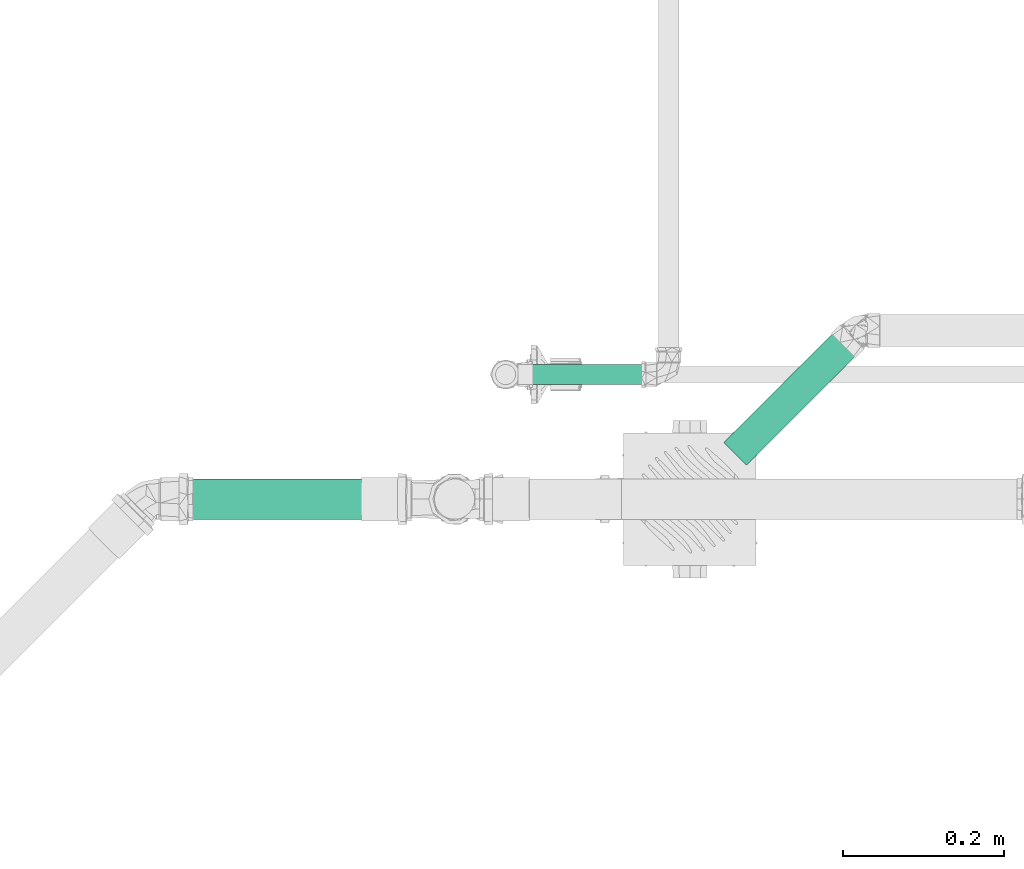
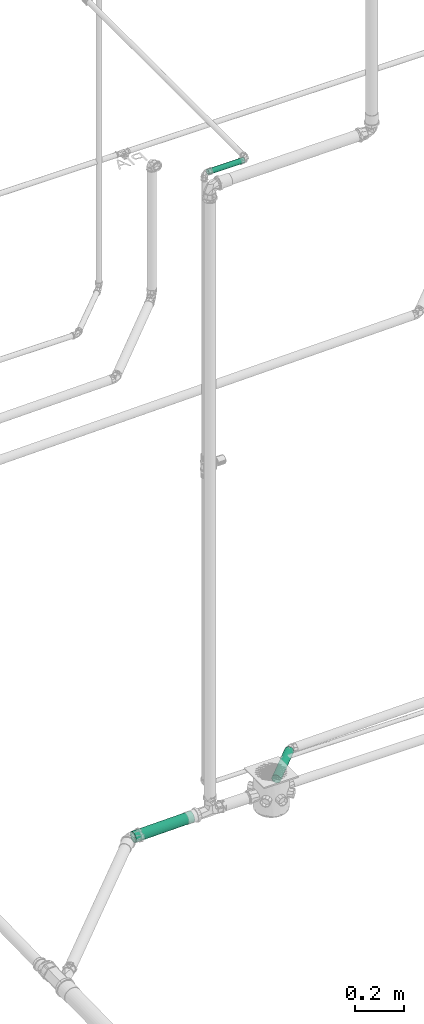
# One storey, part 28 of 589: 3 flow segments.
"""IFC2X3 building model written with IfcOpenShell, lengths in millimetres."""

import ifcopenshell
import ifcopenshell.guid

model = None  # the IFC model being written
_history = None  # IfcOwnerHistory: only IFC2X3 demands one
_inside = {}  # id of a spatial element -> (the spatial element, [elements in it])
_under = {}  # id of a project, library or spatial element -> (it, [spatial elements below it])
_declared = {}  # id of a project -> (the project, [libraries it declares])
_typed = {}  # id of a type object -> (the type object, [elements of that type])
_made_of = {}  # id of a material, layer set ... -> (it, [elements and type objects made of it])


def new_model(schema):
    """Start an empty IFC model of exactly this schema.

    Asked for "IFC4X3", IfcOpenShell would pick the latest addendum, in which some entities
    have other attributes; the version numbers below select the first issue.
    IFC2X3 requires an IfcOwnerHistory on every rooted entity: one is made here for all.
    """
    global model, _history
    if schema == "IFC4X3":
        model = ifcopenshell.file(schema_version=(4, 3, 0, 0))
    else:
        model = ifcopenshell.file(schema=schema)
    _inside.clear()
    _under.clear()
    _declared.clear()
    _typed.clear()
    _made_of.clear()
    _history = None
    if model.schema == "IFC2X3":
        org = make("IfcOrganization", Name="unknown")
        user = make(
            "IfcPersonAndOrganization",
            ThePerson=make("IfcPerson", FamilyName="unknown"),
            TheOrganization=org,
        )
        app = make(
            "IfcApplication",
            ApplicationDeveloper=org,
            Version="unknown",
            ApplicationFullName="unknown",
            ApplicationIdentifier="unknown",
        )
        _history = make(
            "IfcOwnerHistory",
            OwningUser=user,
            OwningApplication=app,
            ChangeAction="ADDED",
            CreationDate=0,
        )
    return model


def make(cls, **values):
    """One entity of the class cls with the attributes given. An attribute that is None is left unset."""
    return model.create_entity(
        cls, **{name: value for name, value in values.items() if value is not None}
    )


def entity(cls, *values):
    """Any entity or typed value of the class cls, its attributes in the order of the schema. None: left unset."""
    e = model.create_entity(cls)
    for i, value in enumerate(values):
        if value is not None:
            e[i] = value
    return e


def rooted(cls, **values):
    """An entity with a GlobalId (a new one), such as an element, a storey or a relation."""
    return make(cls, GlobalId=ifcopenshell.guid.new(), OwnerHistory=_history, **values)


def si_unit(unit_type, name, prefix=None):
    """IfcSIUnit, for example si_unit("LENGTHUNIT", "METRE", prefix="MILLI")."""
    return make("IfcSIUnit", UnitType=unit_type, Prefix=prefix, Name=name)


def converted_unit(unit_type, name, factor, base, dimensions=None, offset=None):
    """IfcConversionBasedUnit, such as the inch: factor (a typed value) times the base unit."""
    return make(
        "IfcConversionBasedUnit"
        if offset is None
        else "IfcConversionBasedUnitWithOffset",
        ConversionOffset=offset,
        Dimensions=None
        if dimensions is None
        else entity("IfcDimensionalExponents", *dimensions),
        UnitType=unit_type,
        Name=name,
        ConversionFactor=make(
            "IfcMeasureWithUnit", ValueComponent=factor, UnitComponent=base
        ),
    )


def derived_unit(unit_type, elements):
    """IfcDerivedUnit: a product of units, each with its exponent."""
    return make(
        "IfcDerivedUnit",
        Elements=[
            make("IfcDerivedUnitElement", Unit=unit, Exponent=power)
            for unit, power in elements
        ],
        UnitType=unit_type,
    )


def assignment(units):
    """IfcUnitAssignment: the units of a project."""
    return None if units is None else make("IfcUnitAssignment", Units=units)


def point(xyz):
    """IfcCartesianPoint."""
    return None if xyz is None else make("IfcCartesianPoint", Coordinates=xyz)


def direction(xyz):
    """IfcDirection."""
    return None if xyz is None else make("IfcDirection", DirectionRatios=xyz)


def frame(location, z_axis=None, x_axis=None):
    """IfcAxis2Placement3D, a coordinate frame: its origin and axes. An axis left out is left unset."""
    return make(
        "IfcAxis2Placement3D",
        Location=point(location),
        Axis=direction(z_axis),
        RefDirection=direction(x_axis),
    )


def frame_2d(location, x_axis=None):
    """IfcAxis2Placement2D, a coordinate frame in the plane: its origin and x axis."""
    return make(
        "IfcAxis2Placement2D", Location=point(location), RefDirection=direction(x_axis)
    )


def origin():
    """The frame at (0, 0, 0) with its axes left unset."""
    return frame((0.0, 0.0, 0.0))


def origin_2d_with_axis():
    """The frame at (0, 0) in the plane with the x axis (1, 0) written out."""
    return frame_2d((0.0, 0.0), x_axis=(1.0, 0.0))


def place(relative_to, where):
    """IfcLocalPlacement: puts the frame where relative to a parent placement (None: the world)."""
    return make(
        "IfcLocalPlacement", PlacementRelTo=relative_to, RelativePlacement=where
    )


def context(
    kind, dimensions, precision=None, world=None, true_north=None, identifier=None
):
    """IfcGeometricRepresentationContext, for example the 3D "Model" context."""
    return make(
        "IfcGeometricRepresentationContext",
        ContextIdentifier=identifier,
        ContextType=kind,
        CoordinateSpaceDimension=dimensions,
        Precision=precision,
        WorldCoordinateSystem=world,
        TrueNorth=true_north,
    )


def subcontext(parent, identifier, kind, view, scale=None):
    """IfcGeometricRepresentationSubContext, for example "Body" below "Model"."""
    return make(
        "IfcGeometricRepresentationSubContext",
        ContextIdentifier=identifier,
        ContextType=kind,
        ParentContext=parent,
        TargetScale=scale,
        TargetView=view,
    )


def project(units=None, contexts=None):
    """IfcProject with its units and contexts."""
    return rooted(
        "IfcProject",
        Name="project",
        RepresentationContexts=contexts,
        UnitsInContext=assignment(units),
    )


def spatial(cls, under=None, at=None, **own):
    """A site, building, storey or space (cls), placed at a placement, below another one or the project."""
    s = rooted(cls, ObjectPlacement=at, **own)
    if under is not None:
        _under.setdefault(under.id(), (under, []))[1].append(s)
    return s


def profile(cls, at=None, kind="AREA", **sizes):
    """A parametric profile (cls). Its sizes go by their IFC names, for example OverallWidth=200.0."""
    return make(cls, ProfileType=kind, Position=at, **sizes)


def circle(**sizes):
    """IfcCircleProfileDef."""
    return profile("IfcCircleProfileDef", **sizes)


def extrude(swept, where, along, depth):
    """IfcExtrudedAreaSolid: the profile swept, set in the frame where, extruded along a direction by depth."""
    return make(
        "IfcExtrudedAreaSolid",
        SweptArea=swept,
        Position=where,
        ExtrudedDirection=direction(along),
        Depth=depth,
    )


def shape(context_of_items, identifier, shape_type, items):
    """IfcShapeRepresentation: the items that make up one representation, for example the "Body"."""
    return make(
        "IfcShapeRepresentation",
        ContextOfItems=context_of_items,
        RepresentationIdentifier=identifier,
        RepresentationType=shape_type,
        Items=items,
    )


def made_of(thing, what):
    """Note that an element or type object is made of a material, layer set ...; save() writes the relation."""
    if what is not None:
        _made_of.setdefault(what.id(), (what, []))[1].append(thing)
    return thing


def type_object(cls, material=None, **own):
    """A type object (cls), such as IfcWallType, which elements share."""
    return made_of(rooted(cls, **own), material)


def element(
    cls,
    number,
    at=None,
    inside=None,
    cuts=None,
    type_object=None,
    material=None,
    context=None,
    identifier="Body",
    shape_type=None,
    held_by="IfcProductDefinitionShape",
    body=None,
    shapes=None,
    **own,
):
    """One element of the class cls, such as IfcWall. Its Tag is "e" and its number.

    at: its placement. inside: the storey or other place that contains it. cuts: it is an
    opening in that element (IfcRelVoidsElement). A single representation is given by context,
    identifier, shape_type and body (its items); several are given by shapes. held_by: the class
    of the entity that holds the representations. save() writes the other relations.
    """
    e = rooted(cls, Tag="e%d" % number, ObjectPlacement=at, **own)
    if body is not None:
        shapes = [shape(context, identifier, shape_type, body)]
    if shapes is not None:
        e.Representation = make(held_by, Representations=shapes)
    if inside is not None:
        _inside.setdefault(inside.id(), (inside, []))[1].append(e)
    if cuts is not None:
        rooted(
            "IfcRelVoidsElement", RelatingBuildingElement=cuts, RelatedOpeningElement=e
        )
    if type_object is not None:
        _typed.setdefault(type_object.id(), (type_object, []))[1].append(e)
    return made_of(e, material)


def aggregate(whole, parts):
    """IfcRelAggregates: a whole, such as a stair, and the parts it consists of."""
    return rooted("IfcRelAggregates", RelatingObject=whole, RelatedObjects=parts)


def save(model, path):
    """Write the relations noted so far, then the file.

    IfcRelAggregates (storeys below a building ...), IfcRelContainedInSpatialStructure (elements
    in a storey), IfcRelDefinesByType, IfcRelAssociatesMaterial and IfcRelDeclares: one each for
    every whole, place, type object, material and project.
    """
    for whole, parts in _under.values():
        aggregate(whole, parts)
    for where, things in _inside.values():
        rooted(
            "IfcRelContainedInSpatialStructure",
            RelatedElements=things,
            RelatingStructure=where,
        )
    for kind, things in _typed.values():
        rooted("IfcRelDefinesByType", RelatedObjects=things, RelatingType=kind)
    for what, things in _made_of.values():
        rooted("IfcRelAssociatesMaterial", RelatedObjects=things, RelatingMaterial=what)
    for by, libraries in _declared.values():
        rooted("IfcRelDeclares", RelatingContext=by, RelatedDefinitions=libraries)
    model.write(path)


model = new_model("IFC2X3")

# Units and contexts
model_context = context("Model", 3, precision=0.01, world=origin(), true_north=direction((6.123031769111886e-17, 1.0)))
body_context = subcontext(model_context, "Body", "Model", "MODEL_VIEW")
ifc_project = project(units=[si_unit("LENGTHUNIT", "METRE", prefix="MILLI"), si_unit("AREAUNIT", "SQUARE_METRE"), si_unit("VOLUMEUNIT", "CUBIC_METRE"), converted_unit("PLANEANGLEUNIT", "DEGREE", entity("IfcRatioMeasure", 0.017453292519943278), si_unit("PLANEANGLEUNIT", "RADIAN"), dimensions=[0, 0, 0, 0, 0, 0, 0]), si_unit("MASSUNIT", "GRAM", prefix="KILO"), derived_unit("MASSDENSITYUNIT", [(si_unit("MASSUNIT", "GRAM", prefix="KILO"), 1), (si_unit("LENGTHUNIT", "METRE"), -3)]), derived_unit("IONCONCENTRATIONUNIT", [(si_unit("MASSUNIT", "GRAM", prefix="KILO"), 1), (si_unit("LENGTHUNIT", "METRE"), -3)]), derived_unit("MOMENTOFINERTIAUNIT", [(si_unit("LENGTHUNIT", "METRE"), 4)]), si_unit("TIMEUNIT", "SECOND"), si_unit("FREQUENCYUNIT", "HERTZ"), si_unit("THERMODYNAMICTEMPERATUREUNIT", "DEGREE_CELSIUS"), derived_unit("THERMALTRANSMITTANCEUNIT", [(si_unit("MASSUNIT", "GRAM", prefix="KILO"), 1), (si_unit("THERMODYNAMICTEMPERATUREUNIT", "KELVIN"), -1), (si_unit("TIMEUNIT", "SECOND"), -3)]), derived_unit("THERMALCONDUCTANCEUNIT", [(si_unit("MASSUNIT", "GRAM", prefix="KILO"), 1), (si_unit("THERMODYNAMICTEMPERATUREUNIT", "KELVIN"), -1), (si_unit("TIMEUNIT", "SECOND"), -3), (si_unit("LENGTHUNIT", "METRE"), 1)]), derived_unit("VOLUMETRICFLOWRATEUNIT", [(si_unit("LENGTHUNIT", "METRE"), 3), (si_unit("TIMEUNIT", "SECOND"), -1)]), derived_unit("MASSFLOWRATEUNIT", [(si_unit("MASSUNIT", "GRAM", prefix="KILO"), 1), (si_unit("TIMEUNIT", "SECOND"), -1)]), derived_unit("ROTATIONALFREQUENCYUNIT", [(si_unit("TIMEUNIT", "SECOND"), -1)]), si_unit("ELECTRICCURRENTUNIT", "AMPERE"), si_unit("ELECTRICVOLTAGEUNIT", "VOLT"), si_unit("POWERUNIT", "WATT"), si_unit("FORCEUNIT", "NEWTON", prefix="KILO"), si_unit("ILLUMINANCEUNIT", "LUX"), si_unit("LUMINOUSFLUXUNIT", "LUMEN"), si_unit("LUMINOUSINTENSITYUNIT", "CANDELA"), derived_unit("USERDEFINED", [(si_unit("MASSUNIT", "GRAM", prefix="KILO"), -1), (si_unit("LENGTHUNIT", "METRE"), -2), (si_unit("TIMEUNIT", "SECOND"), 3), (si_unit("LUMINOUSFLUXUNIT", "LUMEN"), 1)]), derived_unit("USERDEFINED", [(si_unit("MASSUNIT", "GRAM", prefix="KILO"), 1), (si_unit("TIMEUNIT", "SECOND"), -3), (si_unit("LENGTHUNIT", "METRE"), 3), (si_unit("ELECTRICCURRENTUNIT", "AMPERE"), -2)]), derived_unit("SOUNDPOWERUNIT", [(si_unit("MASSUNIT", "GRAM", prefix="KILO"), 1), (si_unit("TIMEUNIT", "SECOND"), -3), (si_unit("LENGTHUNIT", "METRE"), 2)]), derived_unit("SOUNDPRESSUREUNIT", [(si_unit("MASSUNIT", "GRAM", prefix="KILO"), 1), (si_unit("LENGTHUNIT", "METRE"), -1), (si_unit("TIMEUNIT", "SECOND"), -2)]), derived_unit("LINEARVELOCITYUNIT", [(si_unit("LENGTHUNIT", "METRE"), 1), (si_unit("TIMEUNIT", "SECOND"), -1)]), si_unit("PRESSUREUNIT", "PASCAL"), derived_unit("USERDEFINED", [(si_unit("MASSUNIT", "GRAM", prefix="KILO"), 1), (si_unit("LENGTHUNIT", "METRE"), -2), (si_unit("TIMEUNIT", "SECOND"), -2)]), derived_unit("LINEARFORCEUNIT", [(si_unit("MASSUNIT", "GRAM", prefix="KILO"), 1), (si_unit("TIMEUNIT", "SECOND"), -2)]), derived_unit("PLANARFORCEUNIT", [(si_unit("MASSUNIT", "GRAM", prefix="KILO"), 1), (si_unit("LENGTHUNIT", "METRE"), -1), (si_unit("TIMEUNIT", "SECOND"), -2)]), derived_unit("SPECIFICHEATCAPACITYUNIT", [(si_unit("THERMODYNAMICTEMPERATUREUNIT", "KELVIN"), -1), (si_unit("LENGTHUNIT", "METRE"), 2), (si_unit("TIMEUNIT", "SECOND"), -2)]), derived_unit("HEATINGVALUEUNIT", [(si_unit("LENGTHUNIT", "METRE"), 2), (si_unit("TIMEUNIT", "SECOND"), -2)]), derived_unit("VAPORPERMEABILITYUNIT", [(si_unit("LENGTHUNIT", "METRE"), -1), (si_unit("TIMEUNIT", "SECOND"), 1)]), derived_unit("DYNAMICVISCOSITYUNIT", [(si_unit("MASSUNIT", "GRAM", prefix="KILO"), 1), (si_unit("TIMEUNIT", "SECOND"), -1), (si_unit("LENGTHUNIT", "METRE"), -1)]), derived_unit("THERMALEXPANSIONCOEFFICIENTUNIT", [(si_unit("THERMODYNAMICTEMPERATUREUNIT", "KELVIN"), -1)]), derived_unit("MODULUSOFELASTICITYUNIT", [(si_unit("MASSUNIT", "GRAM", prefix="KILO"), 1), (si_unit("LENGTHUNIT", "METRE"), -1), (si_unit("TIMEUNIT", "SECOND"), -2)]), derived_unit("ISOTHERMALMOISTURECAPACITYUNIT", [(si_unit("LENGTHUNIT", "METRE"), 3), (si_unit("MASSUNIT", "GRAM", prefix="KILO"), -1)]), derived_unit("MOISTUREDIFFUSIVITYUNIT", [(si_unit("TIMEUNIT", "SECOND"), -1), (si_unit("LENGTHUNIT", "METRE"), 2)])], contexts=[model_context])

# Site, building, storey
site_placement = place(None, origin())
site = spatial("IfcSite", under=ifc_project, at=site_placement, Name="Default", CompositionType="ELEMENT")
building_placement = place(site_placement, origin())
building = spatial("IfcBuilding", under=site, at=building_placement, CompositionType="ELEMENT")
storey_placement = place(building_placement, frame((0.0, 0.0, 100.0)))
storey = spatial("IfcBuildingStorey", under=building, at=storey_placement, Name="TÉRREO", CompositionType="ELEMENT", Elevation=100.0)

# Flow segments
pipe_segment_type_1 = type_object("IfcPipeSegmentType", Name="Tipos de tubos:PVC Esgoto Série Normal", PredefinedType="NOTDEFINED")
flow_segment_1_placement = place(storey_placement, origin())
element("IfcFlowSegment", 1, at=flow_segment_1_placement, inside=storey, type_object=pipe_segment_type_1, Name="Tipos de tubos:PVC Esgoto Série Normal", ObjectType="Tipos de tubos:PVC Esgoto Série Normal", context=body_context, shape_type="SweptSolid", body=[
    extrude(circle(Radius=20.0, at=frame_2d((3.6688965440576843e-32, -2.114551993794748e-14), x_axis=(1.0, 0.0))), frame((-7279.5145207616, -7645.854451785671, -117.35270689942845), z_axis=(0.7069654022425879, 0.7069654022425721, 0.01999600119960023), x_axis=(0.7071067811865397, -0.7071067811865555, 0.0)), (0.0, 0.0, 1.0), 205.16595519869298),
])
flow_segment_2_placement = place(storey_placement, origin())
element("IfcFlowSegment", 2, at=flow_segment_2_placement, inside=storey, type_object=pipe_segment_type_1, Name="Tipos de tubos:PVC Esgoto Série Normal", ObjectType="Tipos de tubos:PVC Esgoto Série Normal", context=body_context, shape_type="SweptSolid", body=[
    extrude(circle(Radius=25.0, at=frame_2d((0.0, -1.6916415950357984e-14), x_axis=(1.0, 0.0))), frame((-7993.112494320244, -7702.352283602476, -125.19629301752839), z_axis=(0.999800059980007, 0.0, 0.019996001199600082), x_axis=(0.0, 1.0, 0.0)), (0.0, 0.0, 1.0), 278.95773392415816),
])
pipe_segment_type_2 = type_object("IfcPipeSegmentType", Name="Tipos de tubos:PVC Marrom Soldável", PredefinedType="NOTDEFINED")
flow_segment_3_placement = place(storey_placement, origin())
element("IfcFlowSegment", 3, at=flow_segment_3_placement, inside=storey, type_object=pipe_segment_type_2, Name="Tipos de tubos:PVC Marrom Soldável", ObjectType="Tipos de tubos:PVC Marrom Soldável", context=body_context, shape_type="SweptSolid", body=[
    extrude(circle(Radius=12.5, at=origin_2d_with_axis()), frame((-7549.495534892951, -7547.53128383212, 2970.0), z_axis=(1.0, 0.0, 0.0), x_axis=(0.0, 1.0, 0.0)), (0.0, 0.0, 1.0), 171.82257492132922),
])

save(model, "model.ifc")
